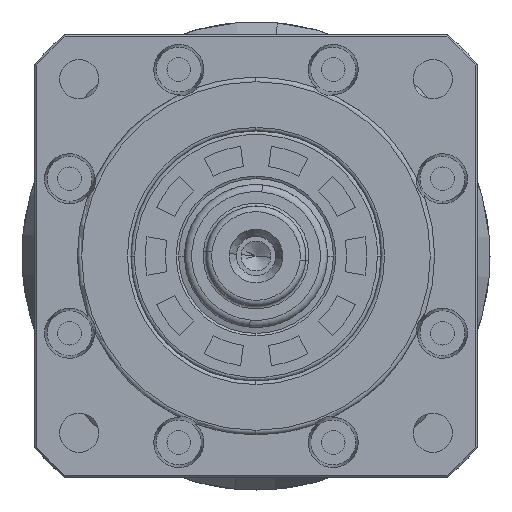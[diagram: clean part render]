
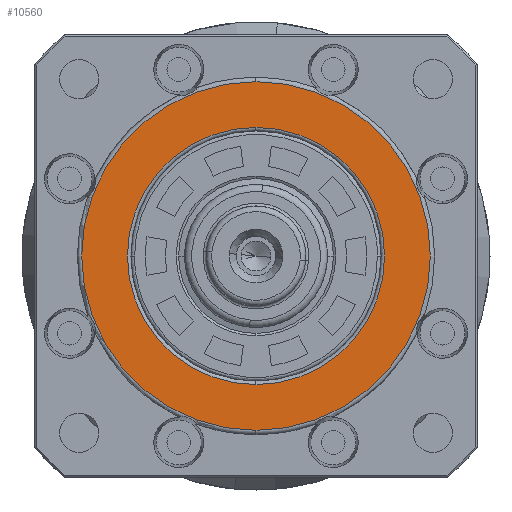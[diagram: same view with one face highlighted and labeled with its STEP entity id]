
A CAD part, left-side view. The second image highlights one B-rep face of the part: STEP entity #10560.
In plain terms, the highlighted planar face has unit normal (-1, 0, 0).
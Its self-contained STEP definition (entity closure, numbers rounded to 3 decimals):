
#5646 = ORIENTED_EDGE ( 'NONE', *, *, #27737, .T. ) ;
#6599 = EDGE_CURVE ( 'NONE', #47258, #54912, #17314, .T. ) ;
#7389 = AXIS2_PLACEMENT_3D ( 'NONE', #53791, #53745, #53669 ) ;
#8545 = CARTESIAN_POINT ( 'NONE',  ( 2., 0., 0. ) ) ;
#8622 = ORIENTED_EDGE ( 'NONE', *, *, #15267, .F. ) ;
#10502 = VERTEX_POINT ( 'NONE', #55538 ) ;
#10560 = ADVANCED_FACE ( 'NONE', ( #19169, #48066 ), #54983, .T. ) ;
#13740 = CARTESIAN_POINT ( 'NONE',  ( 2., 0., -24.4 ) ) ;
#14098 = DIRECTION ( 'NONE',  ( 0., 0., 1. ) ) ;
#15267 = EDGE_CURVE ( 'NONE', #15297, #10502, #48172, .T. ) ;
#15297 = VERTEX_POINT ( 'NONE', #13740 ) ;
#15405 = DIRECTION ( 'NONE',  ( 0., 0., 1. ) ) ;
#15549 = DIRECTION ( 'NONE',  ( 1., 0., 0. ) ) ;
#15638 = CARTESIAN_POINT ( 'NONE',  ( 2., 0., 0. ) ) ;
#16575 = ORIENTED_EDGE ( 'NONE', *, *, #6599, .T. ) ;
#17314 = CIRCLE ( 'NONE', #69285, 18. ) ;
#17911 = AXIS2_PLACEMENT_3D ( 'NONE', #60045, #27674, #65454 ) ;
#19169 = FACE_BOUND ( 'NONE', #34488, .T. ) ;
#21906 = CIRCLE ( 'NONE', #22778, 18. ) ;
#22778 = AXIS2_PLACEMENT_3D ( 'NONE', #8545, #46737, #14098 ) ;
#24418 = CARTESIAN_POINT ( 'NONE',  ( 2., 0., 0. ) ) ;
#27674 = DIRECTION ( 'NONE',  ( 1., 0., 0. ) ) ;
#27737 = EDGE_CURVE ( 'NONE', #54912, #47258, #21906, .T. ) ;
#27923 = CIRCLE ( 'NONE', #17911, 24.4 ) ;
#29919 = DIRECTION ( 'NONE',  ( 0., 0., 1. ) ) ;
#30057 = EDGE_CURVE ( 'NONE', #10502, #15297, #27923, .T. ) ;
#32751 = AXIS2_PLACEMENT_3D ( 'NONE', #24418, #62229, #29919 ) ;
#34488 = EDGE_LOOP ( 'NONE', ( #5646, #16575 ) ) ;
#42352 = CARTESIAN_POINT ( 'NONE',  ( 2., 0., -18. ) ) ;
#45451 = ORIENTED_EDGE ( 'NONE', *, *, #30057, .F. ) ;
#46737 = DIRECTION ( 'NONE',  ( 1., 0., 0. ) ) ;
#47258 = VERTEX_POINT ( 'NONE', #42352 ) ;
#48066 = FACE_OUTER_BOUND ( 'NONE', #51523, .T. ) ;
#48172 = CIRCLE ( 'NONE', #32751, 24.4 ) ;
#51523 = EDGE_LOOP ( 'NONE', ( #45451, #8622 ) ) ;
#53669 = DIRECTION ( 'NONE',  ( 0., 0., 1. ) ) ;
#53745 = DIRECTION ( 'NONE',  ( -1., 0., 0. ) ) ;
#53791 = CARTESIAN_POINT ( 'NONE',  ( 2., -18., 0. ) ) ;
#54912 = VERTEX_POINT ( 'NONE', #58014 ) ;
#54983 = PLANE ( 'NONE',  #7389 ) ;
#55538 = CARTESIAN_POINT ( 'NONE',  ( 2., 0., 24.4 ) ) ;
#58014 = CARTESIAN_POINT ( 'NONE',  ( 2., 0., 18. ) ) ;
#60045 = CARTESIAN_POINT ( 'NONE',  ( 2., 0., 0. ) ) ;
#62229 = DIRECTION ( 'NONE',  ( 1., 0., 0. ) ) ;
#65454 = DIRECTION ( 'NONE',  ( 0., 0., 1. ) ) ;
#69285 = AXIS2_PLACEMENT_3D ( 'NONE', #15638, #15549, #15405 ) ;
